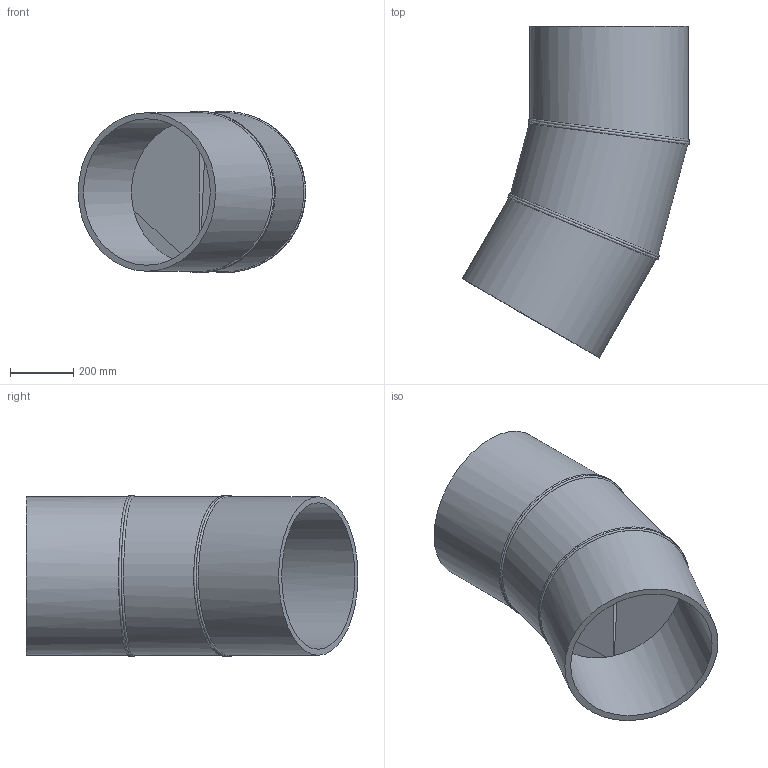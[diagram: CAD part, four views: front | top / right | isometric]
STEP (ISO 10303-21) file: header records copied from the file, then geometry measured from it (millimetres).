
FILE_DESCRIPTION(/* description */ ('Unknown'),/* implementation_level */ '2;1');
FILE_NAME(/* name */ 'Curva 30° a settore DE500 SDR26',/* time_stamp */ '2022-07-26T09:16:48+02:00',/* author */ ('Unknown'),/* organization */ ('Unknown'),/* preprocessor_version */ 'ST-DEVELOPER v18.102',/* originating_system */ 'Solid Edge',/* authorisation */ 'Unknown');
FILE_SCHEMA (('AUTOMOTIVE_DESIGN {1 0 10303 214 3 1 1}'));
Length unit declared in the file: millimetre
Products named in the file (3): Curva 30° a settore DE500 SDR26; Tubo x Gomito 30° DE500 SDR26 - 1; Tubo x Gomito 30° DE500 SDR26 - 2
Assembly tree (3 placements, depth 2):
  Curva 30° a settore DE500 SDR26
    Tubo x Gomito 30° DE500 SDR26 - 1  x2
    Tubo x Gomito 30° DE500 SDR26 - 2
Bounding box: 717.4 x 1046.46 x 507.98 mm (x, y, z)
Volume: 28344875.6 mm3; surface area: 3154818.3 mm2
Topology: 3 solids, 3 shells, 24 faces, 51 edges, 33 vertices
Faces by surface type: cylinder 14, plane 6, bspline 4
Full cylindrical faces by diameter (mm): 461.8 x3, 500 x3
Entity records: 2468 total; most frequent: CARTESIAN_POINT 2073, DIRECTION 70, ORIENTED_EDGE 52, AXIS2_PLACEMENT_3D 35, EDGE_LOOP 28, FACE_BOUND 28, EDGE_CURVE 26, VERTEX_POINT 20
